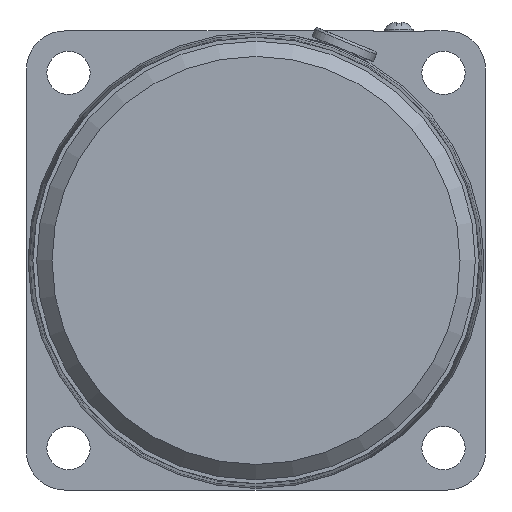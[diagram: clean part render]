
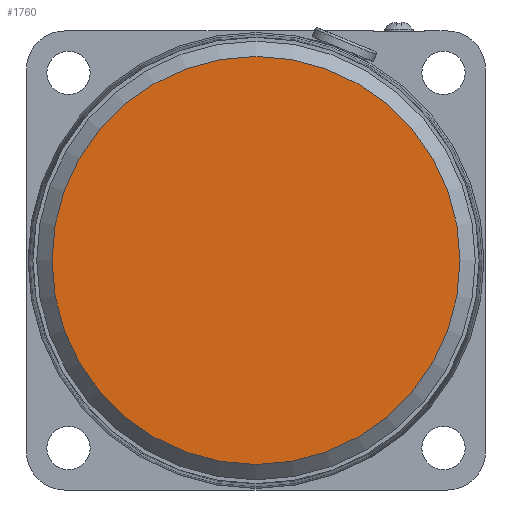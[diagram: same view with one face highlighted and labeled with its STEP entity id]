
A CAD part, left-side view. The second image highlights one B-rep face of the part: STEP entity #1760.
In plain terms, the highlighted planar face has unit normal (-1, 0, 0).
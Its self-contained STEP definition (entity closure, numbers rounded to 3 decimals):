
#175=CIRCLE('',#1921,40.);
#274=FACE_OUTER_BOUND('',#403,.T.);
#403=EDGE_LOOP('',(#1512));
#824=VERTEX_POINT('',#3037);
#1052=EDGE_CURVE('',#824,#824,#175,.T.);
#1512=ORIENTED_EDGE('',*,*,#1052,.F.);
#1571=PLANE('',#1931);
#1760=ADVANCED_FACE('',(#274),#1571,.T.);
#1921=AXIS2_PLACEMENT_3D('',#3038,#2377,#2378);
#1931=AXIS2_PLACEMENT_3D('',#3052,#2397,#2398);
#2377=DIRECTION('center_axis',(1.,0.,0.));
#2378=DIRECTION('ref_axis',(0.,1.,0.));
#2397=DIRECTION('center_axis',(-1.,0.,0.));
#2398=DIRECTION('ref_axis',(0.,0.,1.));
#3037=CARTESIAN_POINT('',(0.,40.,0.));
#3038=CARTESIAN_POINT('Origin',(0.,0.,
0.));
#3052=CARTESIAN_POINT('Origin',(0.,20.,
0.));
